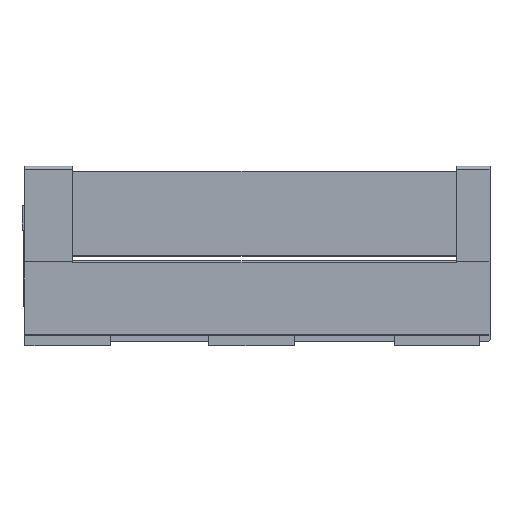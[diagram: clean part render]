
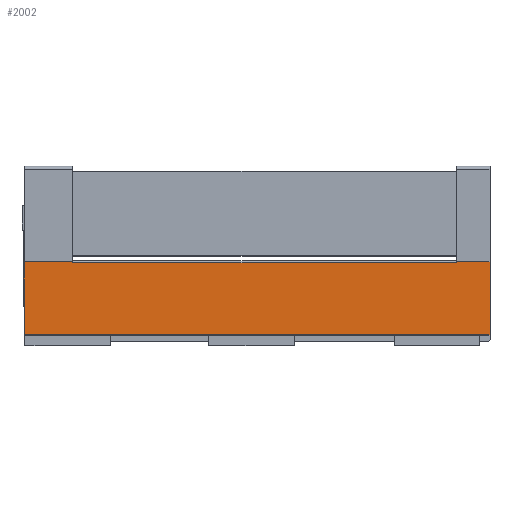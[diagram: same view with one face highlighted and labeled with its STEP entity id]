
A CAD part, left-side view. The second image highlights one B-rep face of the part: STEP entity #2002.
In plain terms, the highlighted planar face has unit normal (-1, 0, 0).
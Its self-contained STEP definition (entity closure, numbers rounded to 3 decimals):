
#368 = FACE_OUTER_BOUND ( 'NONE', #1096, .T. ) ;
#944 = ORIENTED_EDGE ( 'NONE', *, *, #4639, .F. ) ;
#945 = ORIENTED_EDGE ( 'NONE', *, *, #4615, .F. ) ;
#946 = ORIENTED_EDGE ( 'NONE', *, *, #4925, .F. ) ;
#947 = ORIENTED_EDGE ( 'NONE', *, *, #4737, .T. ) ;
#948 = ORIENTED_EDGE ( 'NONE', *, *, #4542, .T. ) ;
#949 = ORIENTED_EDGE ( 'NONE', *, *, #4513, .F. ) ;
#950 = ORIENTED_EDGE ( 'NONE', *, *, #4644, .F. ) ;
#951 = ORIENTED_EDGE ( 'NONE', *, *, #4895, .F. ) ;
#1096 = EDGE_LOOP ( 'NONE', ( #944, #945, #946, #947, #948, #949, #950, #951 ) ) ;
#1319 = VECTOR ( 'NONE', #2124, 1000. ) ;
#1320 = LINE ( 'NONE', #2123, #1319 ) ;
#1388 = VECTOR ( 'NONE', #3213, 1000. ) ;
#1389 = LINE ( 'NONE', #3214, #1388 ) ;
#1400 = VECTOR ( 'NONE', #3230, 1000. ) ;
#1408 = LINE ( 'NONE', #3233, #1400 ) ;
#1449 = VECTOR ( 'NONE', #3304, 1000. ) ;
#1450 = LINE ( 'NONE', #3306, #1449 ) ;
#1550 = VECTOR ( 'NONE', #3451, 1000. ) ;
#1551 = LINE ( 'NONE', #3452, #1550 ) ;
#1576 = VECTOR ( 'NONE', #4283, 1000. ) ;
#1577 = LINE ( 'NONE', #4289, #1576 ) ;
#1723 = VECTOR ( 'NONE', #2478, 1000. ) ;
#1724 = LINE ( 'NONE', #2477, #1723 ) ;
#1776 = VECTOR ( 'NONE', #2419, 1000. ) ;
#1777 = LINE ( 'NONE', #2418, #1776 ) ;
#2002 = ADVANCED_FACE ( 'NONE', ( #368 ), #3573, .F. ) ;
#2123 = CARTESIAN_POINT ( 'NONE',  ( -4.1, 490., 46.498 ) ) ;
#2124 = DIRECTION ( 'NONE',  ( 0., 0., -1. ) ) ;
#2418 = CARTESIAN_POINT ( 'NONE',  ( -4.1, 35.3, -28.503 ) ) ;
#2419 = DIRECTION ( 'NONE',  ( 0., 0., 1. ) ) ;
#2477 = CARTESIAN_POINT ( 'NONE',  ( -4.1, 490., 48.248 ) ) ;
#2478 = DIRECTION ( 'NONE',  ( 0., -1., 0. ) ) ;
#3040 = VERTEX_POINT ( 'NONE', #4028 ) ;
#3075 = VERTEX_POINT ( 'NONE', #3237 ) ;
#3081 = VERTEX_POINT ( 'NONE', #4176 ) ;
#3151 = VERTEX_POINT ( 'NONE', #4010 ) ;
#3175 = VERTEX_POINT ( 'NONE', #3796 ) ;
#3183 = VERTEX_POINT ( 'NONE', #3750 ) ;
#3213 = DIRECTION ( 'NONE',  ( 0., -1., 0. ) ) ;
#3214 = CARTESIAN_POINT ( 'NONE',  ( -4.1, 490., 48.248 ) ) ;
#3230 = DIRECTION ( 'NONE',  ( 0., -1., 0. ) ) ;
#3233 = CARTESIAN_POINT ( 'NONE',  ( -4.1, 595., 47.266 ) ) ;
#3237 = CARTESIAN_POINT ( 'NONE',  ( -4.1, 35.3, 48.248 ) ) ;
#3304 = DIRECTION ( 'NONE',  ( 0., 0., -1. ) ) ;
#3306 = CARTESIAN_POINT ( 'NONE',  ( -4.1, 439.3, -28.503 ) ) ;
#3451 = DIRECTION ( 'NONE',  ( 0., -1., 0. ) ) ;
#3452 = CARTESIAN_POINT ( 'NONE',  ( -4.1, 490., -28.503 ) ) ;
#3490 = VERTEX_POINT ( 'NONE', #3918 ) ;
#3570 = CARTESIAN_POINT ( 'NONE',  ( -4.1, 490., -28.503 ) ) ;
#3573 = PLANE ( 'NONE',  #4531 ) ;
#3608 = DIRECTION ( 'NONE',  ( 1., 0., 0. ) ) ;
#3662 = DIRECTION ( 'NONE',  ( 0., 0., -1. ) ) ;
#3712 = VERTEX_POINT ( 'NONE', #4241 ) ;
#3750 = CARTESIAN_POINT ( 'NONE',  ( -4.1, 0., -28.503 ) ) ;
#3796 = CARTESIAN_POINT ( 'NONE',  ( -4.1, 439.3, 47.266 ) ) ;
#3918 = CARTESIAN_POINT ( 'NONE',  ( -4.1, 0., 48.248 ) ) ;
#4010 = CARTESIAN_POINT ( 'NONE',  ( -4.1, 439.3, 48.248 ) ) ;
#4028 = CARTESIAN_POINT ( 'NONE',  ( -4.1, 35.3, 47.266 ) ) ;
#4176 = CARTESIAN_POINT ( 'NONE',  ( -4.1, 490., 48.248 ) ) ;
#4241 = CARTESIAN_POINT ( 'NONE',  ( -4.1, 490., -28.503 ) ) ;
#4283 = DIRECTION ( 'NONE',  ( 0., 0., -1. ) ) ;
#4289 = CARTESIAN_POINT ( 'NONE',  ( -4.1, 0., -28.503 ) ) ;
#4513 = EDGE_CURVE ( 'NONE', #3490, #3183, #1577, .T. ) ;
#4531 = AXIS2_PLACEMENT_3D ( 'NONE', #3570, #3608, #3662 ) ;
#4542 = EDGE_CURVE ( 'NONE', #3712, #3183, #1551, .T. ) ;
#4615 = EDGE_CURVE ( 'NONE', #3151, #3175, #1450, .T. ) ;
#4639 = EDGE_CURVE ( 'NONE', #3175, #3040, #1408, .T. ) ;
#4644 = EDGE_CURVE ( 'NONE', #3075, #3490, #1389, .T. ) ;
#4737 = EDGE_CURVE ( 'NONE', #3081, #3712, #1320, .T. ) ;
#4895 = EDGE_CURVE ( 'NONE', #3040, #3075, #1777, .T. ) ;
#4925 = EDGE_CURVE ( 'NONE', #3081, #3151, #1724, .T. ) ;
